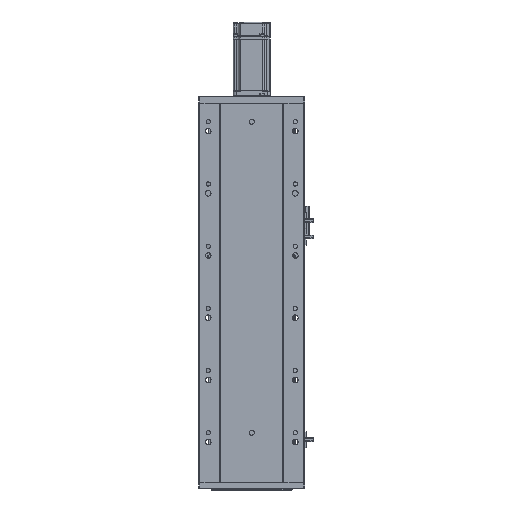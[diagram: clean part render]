
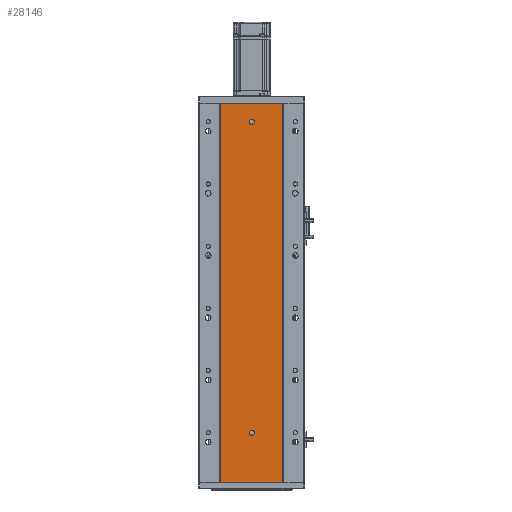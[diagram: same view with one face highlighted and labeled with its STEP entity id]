
A CAD part, front view. The second image highlights one B-rep face of the part: STEP entity #28146.
In plain terms, the highlighted planar face has unit normal (0, -1, 0).
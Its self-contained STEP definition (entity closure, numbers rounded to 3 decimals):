
#3528 = CARTESIAN_POINT ( 'NONE',  ( 136.47, 79.476, 584. ) ) ;
#3543 = CARTESIAN_POINT ( 'NONE',  ( 136.47, 79.476, 84. ) ) ;
#3606 = CARTESIAN_POINT ( 'NONE',  ( 136.47, 79.476, 576. ) ) ;
#3637 = CARTESIAN_POINT ( 'NONE',  ( 136.47, 79.476, 76. ) ) ;
#10609 = EDGE_CURVE ( 'NONE', #22877, #22812, #44734, .T. ) ;
#10760 = EDGE_CURVE ( 'NONE', #34159, #34240, #44925, .T. ) ;
#10789 = EDGE_CURVE ( 'NONE', #34154, #34206, #45042, .T. ) ;
#10809 = EDGE_CURVE ( 'NONE', #34206, #34240, #45234, .T. ) ;
#10840 = EDGE_CURVE ( 'NONE', #22869, #22828, #45094, .T. ) ;
#10845 = EDGE_CURVE ( 'NONE', #34154, #34159, #45244, .T. ) ;
#19826 = FACE_BOUND ( 'NONE', #26388, .T. ) ;
#19853 = FACE_OUTER_BOUND ( 'NONE', #26419, .T. ) ;
#19869 = FACE_BOUND ( 'NONE', #26431, .T. ) ;
#21328 = DIRECTION ( 'NONE',  ( 0., 0., 1. ) ) ;
#21334 = PLANE ( 'NONE',  #21675 ) ;
#21356 = CARTESIAN_POINT ( 'NONE',  ( 0., 79.476, 610. ) ) ;
#21357 = DIRECTION ( 'NONE',  ( 0., 1., 0. ) ) ;
#21675 = AXIS2_PLACEMENT_3D ( 'NONE', #21356, #21357, #21328 ) ;
#22812 = VERTEX_POINT ( 'NONE', #3543 ) ;
#22828 = VERTEX_POINT ( 'NONE', #3528 ) ;
#22869 = VERTEX_POINT ( 'NONE', #3606 ) ;
#22877 = VERTEX_POINT ( 'NONE', #3637 ) ;
#24047 = AXIS2_PLACEMENT_3D ( 'NONE', #55376, #55385, #55399 ) ;
#24181 = AXIS2_PLACEMENT_3D ( 'NONE', #55733, #55728, #55748 ) ;
#24844 = ORIENTED_EDGE ( 'NONE', *, *, #65332, .F. ) ;
#24859 = ORIENTED_EDGE ( 'NONE', *, *, #10609, .F. ) ;
#24870 = ORIENTED_EDGE ( 'NONE', *, *, #10845, .T. ) ;
#24885 = ORIENTED_EDGE ( 'NONE', *, *, #10789, .F. ) ;
#24901 = ORIENTED_EDGE ( 'NONE', *, *, #10760, .T. ) ;
#24916 = ORIENTED_EDGE ( 'NONE', *, *, #10809, .F. ) ;
#24952 = ORIENTED_EDGE ( 'NONE', *, *, #10840, .F. ) ;
#26388 = EDGE_LOOP ( 'NONE', ( #24952, #24844 ) ) ;
#26419 = EDGE_LOOP ( 'NONE', ( #24901, #24916, #24885, #24870 ) ) ;
#26431 = EDGE_LOOP ( 'NONE', ( #24859, #33031 ) ) ;
#28146 = ADVANCED_FACE ( 'NONE', ( #19826, #19869, #19853 ), #21334, .F. ) ;
#32060 = AXIS2_PLACEMENT_3D ( 'NONE', #56144, #56150, #56154 ) ;
#32070 = AXIS2_PLACEMENT_3D ( 'NONE', #56412, #56410, #56408 ) ;
#33031 = ORIENTED_EDGE ( 'NONE', *, *, #65415, .F. ) ;
#34154 = VERTEX_POINT ( 'NONE', #43650 ) ;
#34159 = VERTEX_POINT ( 'NONE', #43626 ) ;
#34206 = VERTEX_POINT ( 'NONE', #43767 ) ;
#34240 = VERTEX_POINT ( 'NONE', #43713 ) ;
#43626 = CARTESIAN_POINT ( 'NONE',  ( 86.97, 79.476, 0. ) ) ;
#43650 = CARTESIAN_POINT ( 'NONE',  ( 86.97, 79.476, 610. ) ) ;
#43713 = CARTESIAN_POINT ( 'NONE',  ( 185.97, 79.476, 0. ) ) ;
#43767 = CARTESIAN_POINT ( 'NONE',  ( 185.97, 79.476, 610. ) ) ;
#44734 = CIRCLE ( 'NONE', #32060, 4. ) ;
#44925 = LINE ( 'NONE', #56330, #44996 ) ;
#44996 = VECTOR ( 'NONE', #56331, 1000. ) ;
#45042 = LINE ( 'NONE', #56303, #45087 ) ;
#45087 = VECTOR ( 'NONE', #56306, 1000. ) ;
#45094 = CIRCLE ( 'NONE', #32070, 4. ) ;
#45234 = B_SPLINE_CURVE_WITH_KNOTS ( 'NONE', 3,
 ( #56379, #56374, #56366, #56364 ),
 .UNSPECIFIED., .F., .F.,
 ( 4, 4 ),
 ( 0., 1. ),
 .UNSPECIFIED. ) ;
#45244 = B_SPLINE_CURVE_WITH_KNOTS ( 'NONE', 3,
 ( #56389, #56398, #56392, #56387 ),
 .UNSPECIFIED., .F., .F.,
 ( 4, 4 ),
 ( 0., 1. ),
 .UNSPECIFIED. ) ;
#54253 = CIRCLE ( 'NONE', #24047, 4. ) ;
#54445 = CIRCLE ( 'NONE', #24181, 4. ) ;
#55376 = CARTESIAN_POINT ( 'NONE',  ( 136.47, 79.476, 580. ) ) ;
#55385 = DIRECTION ( 'NONE',  ( 0., -1., 0. ) ) ;
#55399 = DIRECTION ( 'NONE',  ( 0., 0., -1. ) ) ;
#55728 = DIRECTION ( 'NONE',  ( 0., -1., 0. ) ) ;
#55733 = CARTESIAN_POINT ( 'NONE',  ( 136.47, 79.476, 80. ) ) ;
#55748 = DIRECTION ( 'NONE',  ( 0., 0., -1. ) ) ;
#56144 = CARTESIAN_POINT ( 'NONE',  ( 136.47, 79.476, 80. ) ) ;
#56150 = DIRECTION ( 'NONE',  ( 0., -1., 0. ) ) ;
#56154 = DIRECTION ( 'NONE',  ( 0., 0., -1. ) ) ;
#56303 = CARTESIAN_POINT ( 'NONE',  ( 0., 79.476, 610. ) ) ;
#56306 = DIRECTION ( 'NONE',  ( 1., 0., 0. ) ) ;
#56330 = CARTESIAN_POINT ( 'NONE',  ( 0., 79.476, 0. ) ) ;
#56331 = DIRECTION ( 'NONE',  ( 1., 0., 0. ) ) ;
#56364 = CARTESIAN_POINT ( 'NONE',  ( 185.97, 79.476, 0. ) ) ;
#56366 = CARTESIAN_POINT ( 'NONE',  ( 185.97, 79.476, 203.333 ) ) ;
#56374 = CARTESIAN_POINT ( 'NONE',  ( 185.97, 79.476, 406.667 ) ) ;
#56379 = CARTESIAN_POINT ( 'NONE',  ( 185.97, 79.476, 610. ) ) ;
#56387 = CARTESIAN_POINT ( 'NONE',  ( 86.97, 79.476, 0. ) ) ;
#56389 = CARTESIAN_POINT ( 'NONE',  ( 86.97, 79.476, 610. ) ) ;
#56392 = CARTESIAN_POINT ( 'NONE',  ( 86.97, 79.476, 203.333 ) ) ;
#56398 = CARTESIAN_POINT ( 'NONE',  ( 86.97, 79.476, 406.667 ) ) ;
#56408 = DIRECTION ( 'NONE',  ( 0., 0., -1. ) ) ;
#56410 = DIRECTION ( 'NONE',  ( 0., -1., 0. ) ) ;
#56412 = CARTESIAN_POINT ( 'NONE',  ( 136.47, 79.476, 580. ) ) ;
#65332 = EDGE_CURVE ( 'NONE', #22828, #22869, #54253, .T. ) ;
#65415 = EDGE_CURVE ( 'NONE', #22812, #22877, #54445, .T. ) ;
